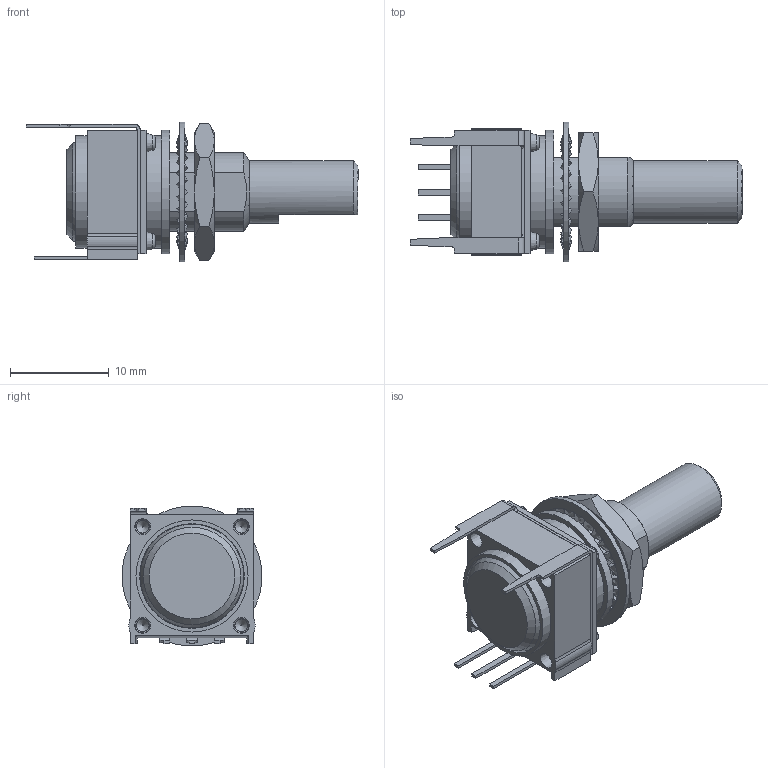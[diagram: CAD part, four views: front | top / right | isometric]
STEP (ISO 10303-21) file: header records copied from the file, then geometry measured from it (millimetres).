
FILE_DESCRIPTION(/* description */ (''),/* implementation_level */ '2;1');
FILE_NAME(/* name */ 'P11S1G0BGFW10102KA',/* time_stamp */ '2021-10-26T16:46:11+02:00',/* author */ ('MEB'),/* organization */ ('VISHAY '),/* preprocessor_version */ 'ST-DEVELOPER v16.7',/* originating_system */ 'DEX',/* authorisation */ $);
FILE_SCHEMA (('AUTOMOTIVE_DESIGN {1 0 10303 214 3 1 1}'));
Length unit declared in the file: millimetre
Products named in the file (11): P11S1G0BGFW10102KA; 3666193; 3652520; M1-W10-102_oa_0; 3656183; sortie ci us 2.54 tordue_oa_1; 3650540; 3650810W; 0685710; 3652600; 3652780_compressé
Assembly tree (10 placements, depth 3):
  P11S1G0BGFW10102KA
    3666193
    3652520
    M1-W10-102_oa_0
      3656183
      sortie ci us 2.54 tordue_oa_1
    3650540
    3650810W
    0685710
    3652600
    3652780_compressé
Bounding box: 33.61 x 14.15 x 14.15 mm (x, y, z)
Volume: 1656.5 mm3; surface area: 3473.1 mm2
Topology: 11 solids, 11 shells, 715 faces, 1989 edges, 1314 vertices
Faces by surface type: plane 379, cylinder 156, bspline 120, cone 52, torus 8
Full cylindrical faces by diameter (mm): 1.3 x4, 1.5 x8, 1.55 x8, 3 x2, 3.5 x1, 4.1 x1, 4.8 x3, 5.25 x1, 6.35 x1, 6.4 x1, 7.188 x1, 7.42 x1, 7.44 x1, 8.4 x1, 9.5 x2, 9.65 x1, 10.6 x1, 10.8 x1, 11.35 x1, 11.4 x1, 12.5 x1, 14.2 x1
Entity records: 24636 total; most frequent: CARTESIAN_POINT 6980, ORIENTED_EDGE 3746, DIRECTION 3035, EDGE_CURVE 1873, VERTEX_POINT 1277, LINE 1019, VECTOR 1019, AXIS2_PLACEMENT_3D 1008
